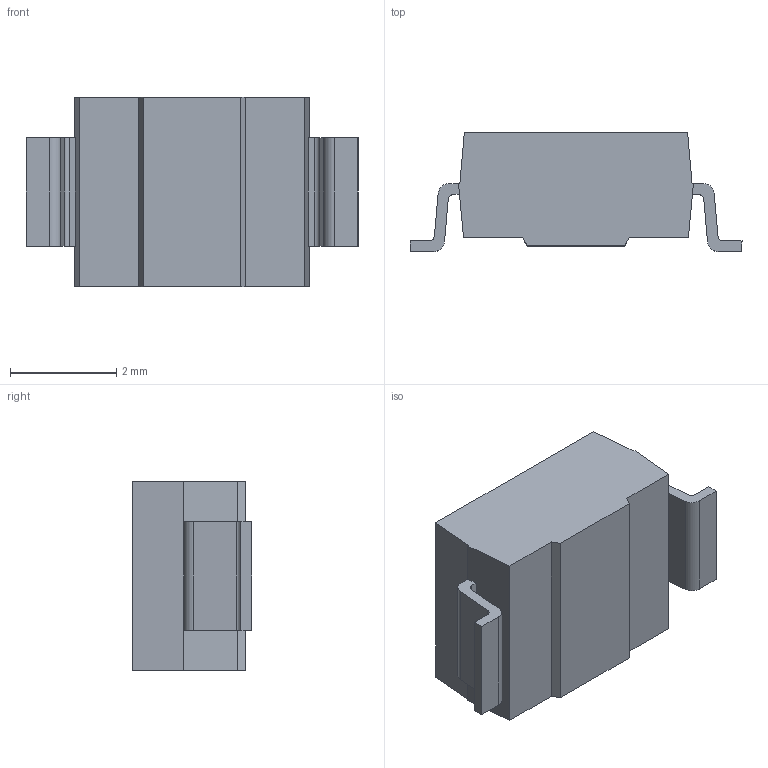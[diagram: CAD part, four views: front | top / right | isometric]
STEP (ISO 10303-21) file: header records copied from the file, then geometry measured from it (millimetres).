
FILE_DESCRIPTION (( 'STEP AP214' ), '1' );
FILE_NAME ('SMBG package.STEP', '2018-01-29T06:20:23', ( 'Vishay' ), ( '' ), 'SwSTEP 2.0', 'SolidWorks 2016', '' );
FILE_SCHEMA (( 'AUTOMOTIVE_DESIGN' ));
Length unit declared in the file: millimetre
Products named in the file (1): SMBG package
Bounding box: 6.25 x 2.24 x 3.56 mm (x, y, z)
Volume: 32.9 mm3; surface area: 78.7 mm2
Topology: 1 solids, 1 shells, 42 faces, 116 edges, 76 vertices
Faces by surface type: plane 34, cylinder 8
Entity records: 1534 total; most frequent: CARTESIAN_POINT 235, ORIENTED_EDGE 232, DIRECTION 218, EDGE_CURVE 116, VECTOR 100, LINE 100, VERTEX_POINT 76, AXIS2_PLACEMENT_3D 59
